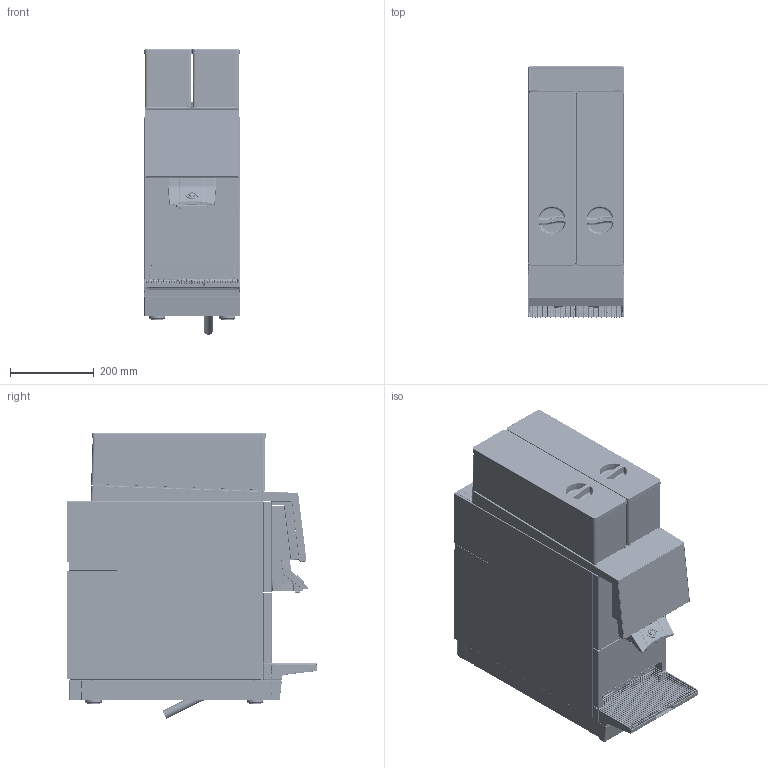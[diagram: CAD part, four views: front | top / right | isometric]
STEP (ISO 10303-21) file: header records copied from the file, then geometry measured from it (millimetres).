
FILE_DESCRIPTION(/* description */ ('Unknown'),/* implementation_level */ '2;1');
FILE_NAME(/* name */ 'BW4c_CTM',/* time_stamp */ '2020-06-02T13:23:29+02:00',/* author */ ('Unknown'),/* organization */ ('Unknown'),/* preprocessor_version */ 'ST-DEVELOPER v16.7',/* originating_system */ 'DEX',/* authorisation */ $);
FILE_SCHEMA (('AUTOMOTIVE_DESIGN {1 0 10303 214 3 1 1}'));
Products named in the file (1): BW4c_CTM
Bounding box: 229.32 x 600.29 x 682.93 mm (x, y, z)
Volume: 4313315.6 mm3; surface area: 4391141.4 mm2
Topology: 118 solids, 119 shells, 31015 faces, 77001 edges, 44911 vertices
Faces by surface type: cylinder 9649, plane 8508, bspline 8378, torus 1904, sphere 1444, cone 1132
Full cylindrical faces by diameter (mm): 0.203 x10, 0.5 x2, 1 x13, 1.18 x9, 1.7 x4, 2 x2, 2.5 x191, 2.6 x1, 2.73 x2, 2.8 x2, 3 x6, 3.1 x2, 3.12 x2, 3.2 x10, 3.242 x7, 3.4 x2, 3.45 x2, 3.5 x2, 3.63 x6, 4 x10, 4.1 x4, 4.15 x10, 4.2 x17, 4.4 x1, 4.5 x11, 4.73 x2, 4.8 x17, 5 x11, 5.025 x2, 5.2 x25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
Entity records: 1136307 total; most frequent: CARTESIAN_POINT 401046, ORIENTED_EDGE 146692, DIRECTION 129942, EDGE_CURVE 73346, AXIS2_PLACEMENT_3D 49607, VERTEX_POINT 44033, FACE_BOUND 33445, EDGE_LOOP 33442
